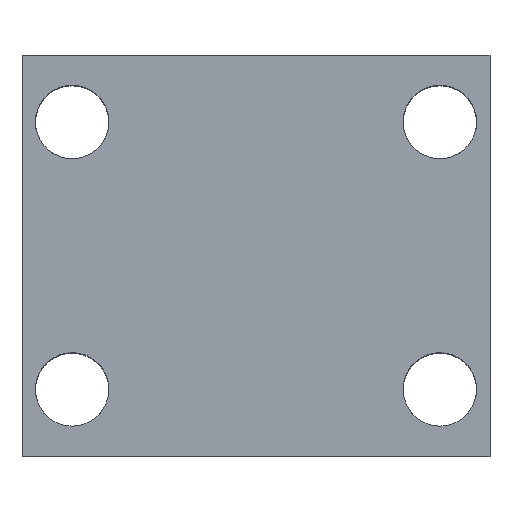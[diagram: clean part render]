
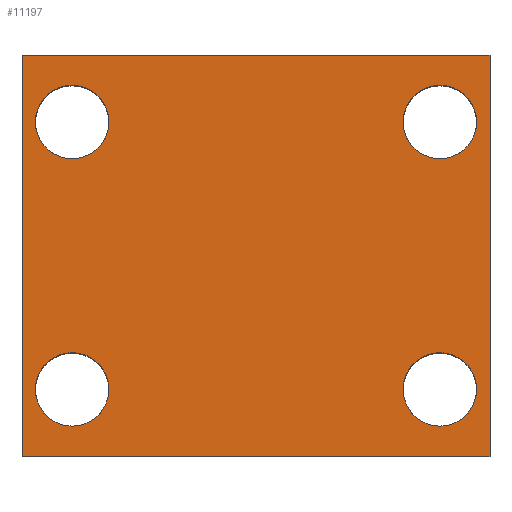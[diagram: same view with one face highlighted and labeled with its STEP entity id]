
A CAD part, top view. The second image highlights one B-rep face of the part: STEP entity #11197.
In plain terms, the highlighted planar face has unit normal (0, 0, 1).
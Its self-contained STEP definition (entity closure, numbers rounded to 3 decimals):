
#387 = AXIS2_PLACEMENT_3D ( 'NONE', #16342, #7888, #17803 ) ;
#483 = VERTEX_POINT ( 'NONE', #10298 ) ;
#856 = CARTESIAN_POINT ( 'NONE',  ( 55., 100., 52.5 ) ) ;
#858 = FACE_BOUND ( 'NONE', #3687, .T. ) ;
#885 = CARTESIAN_POINT ( 'NONE',  ( 55., 20., 52.5 ) ) ;
#901 = CARTESIAN_POINT ( 'NONE',  ( 44., 20., 52.5 ) ) ;
#915 = DIRECTION ( 'NONE',  ( 0., -1., 0. ) ) ;
#1048 = CIRCLE ( 'NONE', #5504, 11. ) ;
#1049 = AXIS2_PLACEMENT_3D ( 'NONE', #18155, #9636, #1346 ) ;
#1091 = ORIENTED_EDGE ( 'NONE', *, *, #12637, .T. ) ;
#1193 = CARTESIAN_POINT ( 'NONE',  ( -55., 20., 52.5 ) ) ;
#1346 = DIRECTION ( 'NONE',  ( -1., 0., 0. ) ) ;
#1873 = VERTEX_POINT ( 'NONE', #901 ) ;
#2113 = AXIS2_PLACEMENT_3D ( 'NONE', #885, #10610, #2302 ) ;
#2135 = EDGE_CURVE ( 'NONE', #6767, #4756, #3044, .T. ) ;
#2220 = DIRECTION ( 'NONE',  ( 0., 0., -1. ) ) ;
#2277 = DIRECTION ( 'NONE',  ( -1., 0., 0. ) ) ;
#2302 = DIRECTION ( 'NONE',  ( -1., 0., 0. ) ) ;
#2434 = CARTESIAN_POINT ( 'NONE',  ( 70., 0., 52.5 ) ) ;
#2625 = DIRECTION ( 'NONE',  ( -1., 0., 0. ) ) ;
#3044 = LINE ( 'NONE', #18047, #6730 ) ;
#3593 = AXIS2_PLACEMENT_3D ( 'NONE', #856, #10573, #2277 ) ;
#3596 = CIRCLE ( 'NONE', #1049, 11. ) ;
#3676 = DIRECTION ( 'NONE',  ( -1., 0., 0. ) ) ;
#3687 = EDGE_LOOP ( 'NONE', ( #13927, #15565 ) ) ;
#3961 = VECTOR ( 'NONE', #15636, 1000. ) ;
#4150 = FACE_BOUND ( 'NONE', #16117, .T. ) ;
#4349 = CIRCLE ( 'NONE', #12252, 11. ) ;
#4756 = VERTEX_POINT ( 'NONE', #2434 ) ;
#5104 = DIRECTION ( 'NONE',  ( 0., 0., -1. ) ) ;
#5182 = CARTESIAN_POINT ( 'NONE',  ( 66., 20., 52.5 ) ) ;
#5299 = VERTEX_POINT ( 'NONE', #12407 ) ;
#5366 = VERTEX_POINT ( 'NONE', #12770 ) ;
#5400 = CARTESIAN_POINT ( 'NONE',  ( -66., 20., 52.5 ) ) ;
#5448 = CARTESIAN_POINT ( 'NONE',  ( -55., 100., 52.5 ) ) ;
#5504 = AXIS2_PLACEMENT_3D ( 'NONE', #13422, #5104, #14800 ) ;
#5738 = CIRCLE ( 'NONE', #387, 11. ) ;
#5810 = CARTESIAN_POINT ( 'NONE',  ( -70., 120., 52.5 ) ) ;
#5917 = AXIS2_PLACEMENT_3D ( 'NONE', #1193, #10933, #2625 ) ;
#6211 = EDGE_CURVE ( 'NONE', #18090, #5299, #11445, .T. ) ;
#6730 = VECTOR ( 'NONE', #12351, 1000. ) ;
#6767 = VERTEX_POINT ( 'NONE', #7357 ) ;
#6795 = DIRECTION ( 'NONE',  ( -1., 0., 0. ) ) ;
#7192 = EDGE_LOOP ( 'NONE', ( #1091, #17693 ) ) ;
#7357 = CARTESIAN_POINT ( 'NONE',  ( -70., 0., 52.5 ) ) ;
#7888 = DIRECTION ( 'NONE',  ( 0., 0., -1. ) ) ;
#8666 = ORIENTED_EDGE ( 'NONE', *, *, #2135, .T. ) ;
#8727 = EDGE_CURVE ( 'NONE', #11399, #483, #5738, .T. ) ;
#8908 = EDGE_CURVE ( 'NONE', #9403, #6767, #11365, .T. ) ;
#9210 = CARTESIAN_POINT ( 'NONE',  ( 70., 120., 52.5 ) ) ;
#9403 = VERTEX_POINT ( 'NONE', #5810 ) ;
#9636 = DIRECTION ( 'NONE',  ( 0., 0., -1. ) ) ;
#9830 = CARTESIAN_POINT ( 'NONE',  ( 44., 100., 52.5 ) ) ;
#10194 = EDGE_LOOP ( 'NONE', ( #8666, #12089, #15839, #13977 ) ) ;
#10298 = CARTESIAN_POINT ( 'NONE',  ( 66., 100., 52.5 ) ) ;
#10518 = CARTESIAN_POINT ( 'NONE',  ( -55., 100., 52.5 ) ) ;
#10567 = CIRCLE ( 'NONE', #2113, 11. ) ;
#10573 = DIRECTION ( 'NONE',  ( 0., 0., -1. ) ) ;
#10589 = CARTESIAN_POINT ( 'NONE',  ( -70., 120., 52.5 ) ) ;
#10610 = DIRECTION ( 'NONE',  ( 0., 0., -1. ) ) ;
#10795 = EDGE_CURVE ( 'NONE', #9403, #5366, #17985, .T. ) ;
#10933 = DIRECTION ( 'NONE',  ( 0., 0., -1. ) ) ;
#11051 = EDGE_LOOP ( 'NONE', ( #17466, #17141 ) ) ;
#11095 = FACE_OUTER_BOUND ( 'NONE', #10194, .T. ) ;
#11197 = ADVANCED_FACE ( 'NONE', ( #14802, #4150, #11542, #858, #11095 ), #17556, .F. ) ;
#11365 = LINE ( 'NONE', #14189, #3961 ) ;
#11399 = VERTEX_POINT ( 'NONE', #9830 ) ;
#11445 = CIRCLE ( 'NONE', #5917, 11. ) ;
#11542 = FACE_BOUND ( 'NONE', #7192, .T. ) ;
#11730 = CIRCLE ( 'NONE', #3593, 11. ) ;
#11957 = DIRECTION ( 'NONE',  ( -1., 0., 0. ) ) ;
#12027 = DIRECTION ( 'NONE',  ( 0., 0., -1. ) ) ;
#12089 = ORIENTED_EDGE ( 'NONE', *, *, #12672, .F. ) ;
#12252 = AXIS2_PLACEMENT_3D ( 'NONE', #5448, #15163, #6795 ) ;
#12351 = DIRECTION ( 'NONE',  ( 1., 0., 0. ) ) ;
#12407 = CARTESIAN_POINT ( 'NONE',  ( -44., 20., 52.5 ) ) ;
#12614 = EDGE_CURVE ( 'NONE', #483, #11399, #11730, .T. ) ;
#12637 = EDGE_CURVE ( 'NONE', #1873, #14332, #1048, .T. ) ;
#12672 = EDGE_CURVE ( 'NONE', #5366, #4756, #15471, .T. ) ;
#12770 = CARTESIAN_POINT ( 'NONE',  ( 70., 120., 52.5 ) ) ;
#12988 = CARTESIAN_POINT ( 'NONE',  ( -70., 120., 52.5 ) ) ;
#13046 = DIRECTION ( 'NONE',  ( 1., 0., 0. ) ) ;
#13422 = CARTESIAN_POINT ( 'NONE',  ( 55., 20., 52.5 ) ) ;
#13479 = CARTESIAN_POINT ( 'NONE',  ( -44., 100., 52.5 ) ) ;
#13497 = ORIENTED_EDGE ( 'NONE', *, *, #18168, .T. ) ;
#13706 = VERTEX_POINT ( 'NONE', #18096 ) ;
#13927 = ORIENTED_EDGE ( 'NONE', *, *, #8727, .T. ) ;
#13977 = ORIENTED_EDGE ( 'NONE', *, *, #8908, .T. ) ;
#14033 = EDGE_CURVE ( 'NONE', #17271, #13706, #4349, .T. ) ;
#14154 = VECTOR ( 'NONE', #13046, 1000. ) ;
#14189 = CARTESIAN_POINT ( 'NONE',  ( -70., 120., 52.5 ) ) ;
#14332 = VERTEX_POINT ( 'NONE', #5182 ) ;
#14670 = EDGE_CURVE ( 'NONE', #13706, #17271, #14765, .T. ) ;
#14765 = CIRCLE ( 'NONE', #16625, 11. ) ;
#14800 = DIRECTION ( 'NONE',  ( -1., 0., 0. ) ) ;
#14802 = FACE_BOUND ( 'NONE', #11051, .T. ) ;
#14996 = VECTOR ( 'NONE', #915, 1000. ) ;
#15163 = DIRECTION ( 'NONE',  ( 0., 0., -1. ) ) ;
#15471 = LINE ( 'NONE', #9210, #14996 ) ;
#15565 = ORIENTED_EDGE ( 'NONE', *, *, #12614, .T. ) ;
#15636 = DIRECTION ( 'NONE',  ( 0., -1., 0. ) ) ;
#15839 = ORIENTED_EDGE ( 'NONE', *, *, #10795, .F. ) ;
#15884 = AXIS2_PLACEMENT_3D ( 'NONE', #10589, #12027, #3676 ) ;
#16117 = EDGE_LOOP ( 'NONE', ( #16319, #13497 ) ) ;
#16319 = ORIENTED_EDGE ( 'NONE', *, *, #6211, .T. ) ;
#16342 = CARTESIAN_POINT ( 'NONE',  ( 55., 100., 52.5 ) ) ;
#16412 = EDGE_CURVE ( 'NONE', #14332, #1873, #10567, .T. ) ;
#16625 = AXIS2_PLACEMENT_3D ( 'NONE', #10518, #2220, #11957 ) ;
#17141 = ORIENTED_EDGE ( 'NONE', *, *, #14033, .T. ) ;
#17271 = VERTEX_POINT ( 'NONE', #13479 ) ;
#17466 = ORIENTED_EDGE ( 'NONE', *, *, #14670, .T. ) ;
#17556 = PLANE ( 'NONE',  #15884 ) ;
#17693 = ORIENTED_EDGE ( 'NONE', *, *, #16412, .T. ) ;
#17803 = DIRECTION ( 'NONE',  ( -1., 0., 0. ) ) ;
#17985 = LINE ( 'NONE', #12988, #14154 ) ;
#18047 = CARTESIAN_POINT ( 'NONE',  ( -70., 0., 52.5 ) ) ;
#18090 = VERTEX_POINT ( 'NONE', #5400 ) ;
#18096 = CARTESIAN_POINT ( 'NONE',  ( -66., 100., 52.5 ) ) ;
#18155 = CARTESIAN_POINT ( 'NONE',  ( -55., 20., 52.5 ) ) ;
#18168 = EDGE_CURVE ( 'NONE', #5299, #18090, #3596, .T. ) ;
